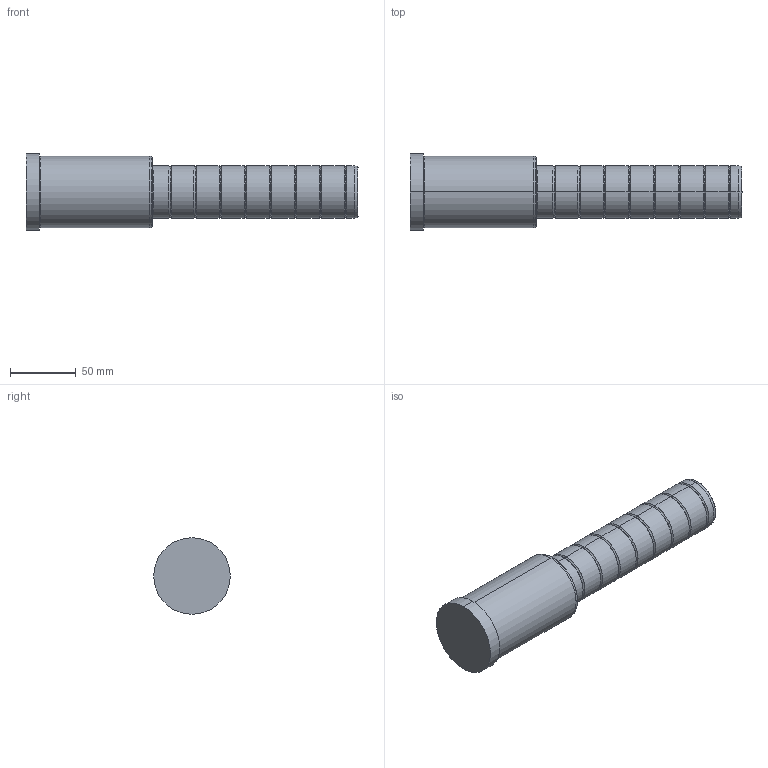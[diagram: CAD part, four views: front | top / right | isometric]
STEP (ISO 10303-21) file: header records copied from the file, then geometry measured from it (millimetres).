
FILE_DESCRIPTION( ( 'STEP AP203' ), '1' );
FILE_NAME( 'C:/Projects/D02 - 40x96x156.step', '2003-01-04T14:10:34', ( ' ' ), ( ' ' ), 'XStep 1.0', ' ', ' ' );
FILE_SCHEMA( ( 'CONFIG_CONTROL_DESIGN' ) );
Length unit declared in the file: metre
Products named in the file (1): 1
Bounding box: 252 x 58 x 58 mm (x, y, z)
Volume: 417833.1 mm3; surface area: 42157.2 mm2
Topology: 1 solids, 1 shells, 72 faces, 142 edges, 76 vertices
Faces by surface type: bspline 42, revolution 30
Entity records: 2315 total; most frequent: CARTESIAN_POINT 1017, ORIENTED_EDGE 284, DIRECTION 214, EDGE_CURVE 142, AXIS2_PLACEMENT_3D 77, EDGE_LOOP 76, VERTEX_POINT 76, CIRCLE 76
